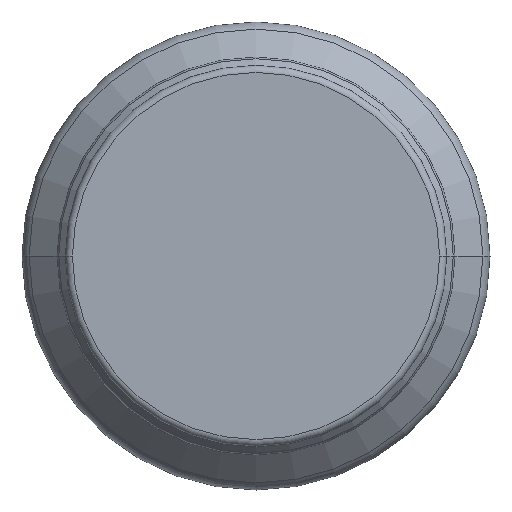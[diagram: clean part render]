
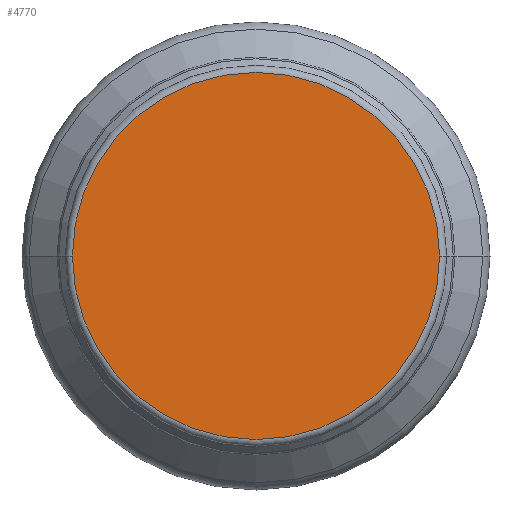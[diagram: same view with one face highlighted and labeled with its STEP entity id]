
A CAD part, left-side view. The second image highlights one B-rep face of the part: STEP entity #4770.
In plain terms, the highlighted planar face has unit normal (-1, 0, 0).
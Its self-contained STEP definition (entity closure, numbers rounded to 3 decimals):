
#4430=CARTESIAN_POINT('',(-13.,52.,0.));
#4440=VERTEX_POINT('',#4430);
#4530=CARTESIAN_POINT('',(-13.,-52.,0.));
#4540=VERTEX_POINT('',#4530);
#4570=CARTESIAN_POINT('',(-13.,0.,0.));
#4580=DIRECTION('',(-1.,0.,0.));
#4590=DIRECTION('',(0.,1.,0.));
#4600=AXIS2_PLACEMENT_3D('',#4570,#4580,#4590);
#4610=CIRCLE('',#4600,52.);
#4620=EDGE_CURVE('',#4540,#4440,#4610,.T.);
#4670=CARTESIAN_POINT('',(-13.,-21.188,-25.693));
#4680=DIRECTION('',(-1.,0.,0.));
#4690=DIRECTION('',(0.,-1.,0.));
#4700=AXIS2_PLACEMENT_3D('',#4670,#4680,#4690);
#4710=PLANE('',#4700);
#4720=EDGE_CURVE('',#4440,#4540,#4610,.T.);
#4730=ORIENTED_EDGE('',*,*,#4720,.T.);
#4740=ORIENTED_EDGE('',*,*,#4620,.T.);
#4750=EDGE_LOOP('',(#4740,#4730));
#4760=FACE_OUTER_BOUND('',#4750,.T.);
#4770=ADVANCED_FACE('',(#4760),#4710,.T.);
